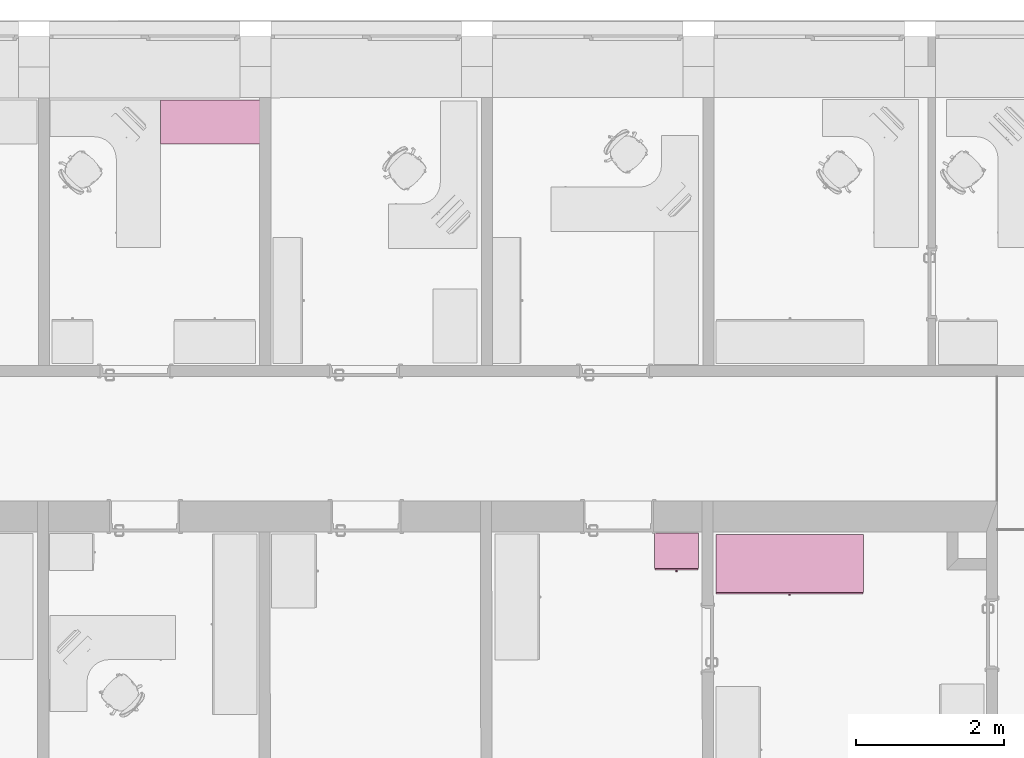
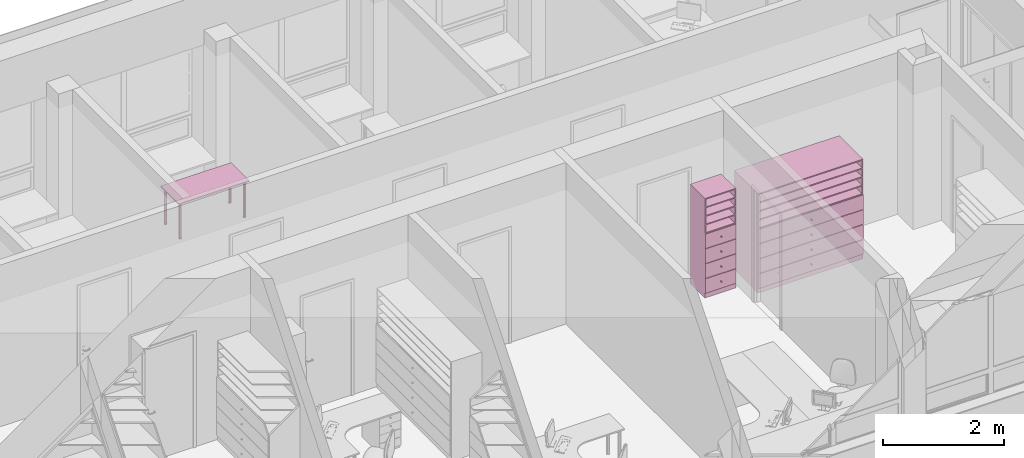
# One storey, part 184 of 194: 3 furnishings.
"""IFC2X3 building model written with IfcOpenShell, lengths in millimetres."""

import ifcopenshell
import ifcopenshell.guid

model = None  # the IFC model being written
_history = None  # IfcOwnerHistory: only IFC2X3 demands one
_inside = {}  # id of a spatial element -> (the spatial element, [elements in it])
_under = {}  # id of a project, library or spatial element -> (it, [spatial elements below it])
_declared = {}  # id of a project -> (the project, [libraries it declares])
_typed = {}  # id of a type object -> (the type object, [elements of that type])
_made_of = {}  # id of a material, layer set ... -> (it, [elements and type objects made of it])


def new_model(schema):
    """Start an empty IFC model of exactly this schema.

    Asked for "IFC4X3", IfcOpenShell would pick the latest addendum, in which some entities
    have other attributes; the version numbers below select the first issue.
    IFC2X3 requires an IfcOwnerHistory on every rooted entity: one is made here for all.
    """
    global model, _history
    if schema == "IFC4X3":
        model = ifcopenshell.file(schema_version=(4, 3, 0, 0))
    else:
        model = ifcopenshell.file(schema=schema)
    _inside.clear()
    _under.clear()
    _declared.clear()
    _typed.clear()
    _made_of.clear()
    _history = None
    if model.schema == "IFC2X3":
        org = make("IfcOrganization", Name="unknown")
        user = make(
            "IfcPersonAndOrganization",
            ThePerson=make("IfcPerson", FamilyName="unknown"),
            TheOrganization=org,
        )
        app = make(
            "IfcApplication",
            ApplicationDeveloper=org,
            Version="unknown",
            ApplicationFullName="unknown",
            ApplicationIdentifier="unknown",
        )
        _history = make(
            "IfcOwnerHistory",
            OwningUser=user,
            OwningApplication=app,
            ChangeAction="ADDED",
            CreationDate=0,
        )
    return model


def make(cls, **values):
    """One entity of the class cls with the attributes given. An attribute that is None is left unset."""
    return model.create_entity(
        cls, **{name: value for name, value in values.items() if value is not None}
    )


def entity(cls, *values):
    """Any entity or typed value of the class cls, its attributes in the order of the schema. None: left unset."""
    e = model.create_entity(cls)
    for i, value in enumerate(values):
        if value is not None:
            e[i] = value
    return e


def rooted(cls, **values):
    """An entity with a GlobalId (a new one), such as an element, a storey or a relation."""
    return make(cls, GlobalId=ifcopenshell.guid.new(), OwnerHistory=_history, **values)


def si_unit(unit_type, name, prefix=None):
    """IfcSIUnit, for example si_unit("LENGTHUNIT", "METRE", prefix="MILLI")."""
    return make("IfcSIUnit", UnitType=unit_type, Prefix=prefix, Name=name)


def converted_unit(unit_type, name, factor, base, dimensions=None, offset=None):
    """IfcConversionBasedUnit, such as the inch: factor (a typed value) times the base unit."""
    return make(
        "IfcConversionBasedUnit"
        if offset is None
        else "IfcConversionBasedUnitWithOffset",
        ConversionOffset=offset,
        Dimensions=None
        if dimensions is None
        else entity("IfcDimensionalExponents", *dimensions),
        UnitType=unit_type,
        Name=name,
        ConversionFactor=make(
            "IfcMeasureWithUnit", ValueComponent=factor, UnitComponent=base
        ),
    )


def derived_unit(unit_type, elements):
    """IfcDerivedUnit: a product of units, each with its exponent."""
    return make(
        "IfcDerivedUnit",
        Elements=[
            make("IfcDerivedUnitElement", Unit=unit, Exponent=power)
            for unit, power in elements
        ],
        UnitType=unit_type,
    )


def money_unit(currency):
    """IfcMonetaryUnit."""
    return make("IfcMonetaryUnit", Currency=currency)


def assignment(units):
    """IfcUnitAssignment: the units of a project."""
    return None if units is None else make("IfcUnitAssignment", Units=units)


def point(xyz):
    """IfcCartesianPoint."""
    return None if xyz is None else make("IfcCartesianPoint", Coordinates=xyz)


def direction(xyz):
    """IfcDirection."""
    return None if xyz is None else make("IfcDirection", DirectionRatios=xyz)


def frame(location, z_axis=None, x_axis=None):
    """IfcAxis2Placement3D, a coordinate frame: its origin and axes. An axis left out is left unset."""
    return make(
        "IfcAxis2Placement3D",
        Location=point(location),
        Axis=direction(z_axis),
        RefDirection=direction(x_axis),
    )


def origin_with_axes():
    """The frame at (0, 0, 0) with the z axis (0, 0, 1) and the x axis (1, 0, 0) written out."""
    return frame((0.0, 0.0, 0.0), z_axis=(0.0, 0.0, 1.0), x_axis=(1.0, 0.0, 0.0))


def place(relative_to, where):
    """IfcLocalPlacement: puts the frame where relative to a parent placement (None: the world)."""
    return make(
        "IfcLocalPlacement", PlacementRelTo=relative_to, RelativePlacement=where
    )


def context(
    kind, dimensions, precision=None, world=None, true_north=None, identifier=None
):
    """IfcGeometricRepresentationContext, for example the 3D "Model" context."""
    return make(
        "IfcGeometricRepresentationContext",
        ContextIdentifier=identifier,
        ContextType=kind,
        CoordinateSpaceDimension=dimensions,
        Precision=precision,
        WorldCoordinateSystem=world,
        TrueNorth=true_north,
    )


def subcontext(parent, identifier, kind, view, scale=None):
    """IfcGeometricRepresentationSubContext, for example "Body" below "Model"."""
    return make(
        "IfcGeometricRepresentationSubContext",
        ContextIdentifier=identifier,
        ContextType=kind,
        ParentContext=parent,
        TargetScale=scale,
        TargetView=view,
    )


def project(units=None, contexts=None):
    """IfcProject with its units and contexts."""
    return rooted(
        "IfcProject",
        Name="project",
        RepresentationContexts=contexts,
        UnitsInContext=assignment(units),
    )


def spatial(cls, under=None, at=None, **own):
    """A site, building, storey or space (cls), placed at a placement, below another one or the project."""
    s = rooted(cls, ObjectPlacement=at, **own)
    if under is not None:
        _under.setdefault(under.id(), (under, []))[1].append(s)
    return s


def faces_of(points, faces, orient=None, outer=None):
    """IfcFace entities. A face is a list of loops; a loop is a list of indices into points, from 0.

    orient and outer hold one flag for each loop. By default every Orientation is true, the
    first loop of a face is its IfcFaceOuterBound and the others are IfcFaceBound.
    """
    made = []
    for i, loops in enumerate(faces):
        bounds = []
        for j, loop in enumerate(loops):
            is_outer = j == 0 if outer is None else outer[i][j]
            bounds.append(
                make(
                    "IfcFaceOuterBound" if is_outer else "IfcFaceBound",
                    Bound=make("IfcPolyLoop", Polygon=[points[k] for k in loop]),
                    Orientation=True if orient is None else orient[i][j],
                )
            )
        made.append(make("IfcFace", Bounds=bounds))
    return made


def faceted_brep(points, faces, orient=None, outer=None, voids=None):
    """IfcFacetedBrep: a solid bounded by flat faces; with voids (closed shells), ...WithVoids."""
    shared = [point(p) for p in points]
    hull = make("IfcClosedShell", CfsFaces=faces_of(shared, faces, orient, outer))
    if voids is None:
        return make("IfcFacetedBrep", Outer=hull)
    return make(
        "IfcFacetedBrepWithVoids",
        Outer=hull,
        Voids=[
            make(cls, CfsFaces=faces_of(shared, fs, o, b)) for cls, fs, o, b in voids
        ],
    )


def shape(context_of_items, identifier, shape_type, items):
    """IfcShapeRepresentation: the items that make up one representation, for example the "Body"."""
    return make(
        "IfcShapeRepresentation",
        ContextOfItems=context_of_items,
        RepresentationIdentifier=identifier,
        RepresentationType=shape_type,
        Items=items,
    )


def made_of(thing, what):
    """Note that an element or type object is made of a material, layer set ...; save() writes the relation."""
    if what is not None:
        _made_of.setdefault(what.id(), (what, []))[1].append(thing)
    return thing


def type_object(cls, material=None, **own):
    """A type object (cls), such as IfcWallType, which elements share."""
    return made_of(rooted(cls, **own), material)


def element(
    cls,
    number,
    at=None,
    inside=None,
    cuts=None,
    type_object=None,
    material=None,
    context=None,
    identifier="Body",
    shape_type=None,
    held_by="IfcProductDefinitionShape",
    body=None,
    shapes=None,
    **own,
):
    """One element of the class cls, such as IfcWall. Its Tag is "e" and its number.

    at: its placement. inside: the storey or other place that contains it. cuts: it is an
    opening in that element (IfcRelVoidsElement). A single representation is given by context,
    identifier, shape_type and body (its items); several are given by shapes. held_by: the class
    of the entity that holds the representations. save() writes the other relations.
    """
    e = rooted(cls, Tag="e%d" % number, ObjectPlacement=at, **own)
    if body is not None:
        shapes = [shape(context, identifier, shape_type, body)]
    if shapes is not None:
        e.Representation = make(held_by, Representations=shapes)
    if inside is not None:
        _inside.setdefault(inside.id(), (inside, []))[1].append(e)
    if cuts is not None:
        rooted(
            "IfcRelVoidsElement", RelatingBuildingElement=cuts, RelatedOpeningElement=e
        )
    if type_object is not None:
        _typed.setdefault(type_object.id(), (type_object, []))[1].append(e)
    return made_of(e, material)


def aggregate(whole, parts):
    """IfcRelAggregates: a whole, such as a stair, and the parts it consists of."""
    return rooted("IfcRelAggregates", RelatingObject=whole, RelatedObjects=parts)


def save(model, path):
    """Write the relations noted so far, then the file.

    IfcRelAggregates (storeys below a building ...), IfcRelContainedInSpatialStructure (elements
    in a storey), IfcRelDefinesByType, IfcRelAssociatesMaterial and IfcRelDeclares: one each for
    every whole, place, type object, material and project.
    """
    for whole, parts in _under.values():
        aggregate(whole, parts)
    for where, things in _inside.values():
        rooted(
            "IfcRelContainedInSpatialStructure",
            RelatedElements=things,
            RelatingStructure=where,
        )
    for kind, things in _typed.values():
        rooted("IfcRelDefinesByType", RelatedObjects=things, RelatingType=kind)
    for what, things in _made_of.values():
        rooted("IfcRelAssociatesMaterial", RelatedObjects=things, RelatingMaterial=what)
    for by, libraries in _declared.values():
        rooted("IfcRelDeclares", RelatingContext=by, RelatedDefinitions=libraries)
    model.write(path)


model = new_model("IFC2X3")

# Units and contexts
model_context = context("Model", 3, precision=1e-05, world=origin_with_axes(), true_north=direction((0.0, 1.0)))
body_context = subcontext(model_context, "Body", "Model", "MODEL_VIEW")
ifc_project = project(units=[si_unit("LENGTHUNIT", "METRE", prefix="MILLI"), si_unit("AREAUNIT", "SQUARE_METRE"), si_unit("VOLUMEUNIT", "CUBIC_METRE"), converted_unit("PLANEANGLEUNIT", "DEGREE", entity("IfcPlaneAngleMeasure", 0.0174532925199), si_unit("PLANEANGLEUNIT", "RADIAN"), dimensions=[0, 0, 0, 0, 0, 0, 0]), si_unit("SOLIDANGLEUNIT", "STERADIAN"), money_unit("EUR"), converted_unit("TIMEUNIT", "Year", entity("IfcTimeMeasure", 31556926.0), si_unit("TIMEUNIT", "SECOND"), dimensions=[0, 0, 1, 0, 0, 0, 0]), si_unit("MASSUNIT", "GRAM", prefix="KILO"), si_unit("THERMODYNAMICTEMPERATUREUNIT", "DEGREE_CELSIUS"), si_unit("LUMINOUSINTENSITYUNIT", "LUMEN"), si_unit("ENERGYUNIT", "JOULE", prefix="MEGA"), derived_unit("THERMALCONDUCTANCEUNIT", [(si_unit("POWERUNIT", "WATT"), 1), (si_unit("LENGTHUNIT", "METRE"), -1), (si_unit("THERMODYNAMICTEMPERATUREUNIT", "KELVIN"), -1)]), derived_unit("SPECIFICHEATCAPACITYUNIT", [(si_unit("ENERGYUNIT", "JOULE"), 1), (si_unit("MASSUNIT", "GRAM", prefix="KILO"), -1), (si_unit("THERMODYNAMICTEMPERATUREUNIT", "KELVIN"), -1)]), derived_unit("MASSDENSITYUNIT", [(si_unit("MASSUNIT", "GRAM", prefix="KILO"), 1), (si_unit("VOLUMEUNIT", "CUBIC_METRE"), -1)])], contexts=[model_context])

# Site, building, storey
site_placement = place(None, origin_with_axes())
site = spatial("IfcSite", under=ifc_project, at=site_placement, Name="Site", CompositionType="ELEMENT")
building_placement = place(site_placement, origin_with_axes())
building = spatial("IfcBuilding", under=site, at=building_placement, Name="Building", CompositionType="ELEMENT")
storey_placement = place(building_placement, frame((0.0, 0.0, 3000.0), z_axis=(0.0, 0.0, 1.0), x_axis=(1.0, 0.0, 0.0)))
storey = spatial("IfcBuildingStorey", under=building, at=storey_placement, Name="2 KORRUS", CompositionType="ELEMENT", Elevation=3000.0)

# Furnishings
furnishing_element_type_1 = type_object("IfcFurnishingElementType", Name="Model Element 116")
furnishing_1_placement = place(storey_placement, frame((28010.7542874, 71059.9263733, 0.0), z_axis=(0.0, 0.0, 1.0), x_axis=(-1.0, 0.0, 0.0)))
element("IfcFurnishingElement", 1, at=furnishing_1_placement, inside=storey, type_object=furnishing_element_type_1, Name="FU - 007", context=body_context, shape_type="Brep", body=[
    faceted_brep([(0.0, 0.0, 725.0), (1344.18056905, 0.0, 725.0), (1344.18056905, 0.0, 750.0), (0.0, 0.0, 750.0), (0.0, 600.0, 725.0), (1344.18056905, 600.0, 725.0), (1344.18056905, 600.0, 750.0), (0.0, 600.0, 750.0)], [[[0, 1, 2, 3]], [[0, 4, 5, 1]], [[1, 5, 6, 2]], [[3, 2, 6, 7]], [[4, 0, 3, 7]], [[5, 4, 7, 6]]]),
    faceted_brep([(77.6776695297, 77.6776695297, 10.0), (85.0, 60.0, 10.0), (77.6776695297, 42.3223304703, 10.0), (60.0, 35.0, 10.0), (42.3223304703, 42.3223304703, 10.0), (35.0, 60.0, 10.0), (42.3223304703, 77.6776695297, 10.0), (60.0, 85.0, 10.0), (77.6776695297, 77.6776695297, 725.0), (85.0, 60.0, 725.0), (77.6776695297, 42.3223304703, 725.0), (60.0, 35.0, 725.0), (42.3223304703, 42.3223304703, 725.0), (35.0, 60.0, 725.0), (42.3223304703, 77.6776695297, 725.0), (60.0, 85.0, 725.0)], [[[0, 1, 2, 3, 4, 5, 6, 7]], [[1, 0, 8, 9]], [[2, 1, 9, 10]], [[3, 2, 10, 11]], [[4, 3, 11, 12]], [[5, 4, 12, 13]], [[6, 5, 13, 14]], [[7, 6, 14, 15]], [[0, 7, 15, 8]], [[8, 15, 14, 13, 12, 11, 10, 9]]]),
    faceted_brep([(81.2132034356, 81.2132034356, 0.0), (90.0, 60.0, 0.0), (81.2132034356, 38.7867965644, 0.0), (60.0, 30.0, 0.0), (38.7867965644, 38.7867965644, 0.0), (30.0, 60.0, 0.0), (38.7867965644, 81.2132034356, 0.0), (60.0, 90.0, 0.0), (81.2132034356, 81.2132034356, 10.0), (90.0, 60.0, 10.0), (81.2132034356, 38.7867965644, 10.0), (60.0, 30.0, 10.0), (38.7867965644, 38.7867965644, 10.0), (30.0, 60.0, 10.0), (38.7867965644, 81.2132034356, 10.0), (60.0, 90.0, 10.0)], [[[0, 1, 2, 3, 4, 5, 6, 7]], [[1, 0, 8, 9]], [[2, 1, 9, 10]], [[3, 2, 10, 11]], [[4, 3, 11, 12]], [[5, 4, 12, 13]], [[6, 5, 13, 14]], [[7, 6, 14, 15]], [[0, 7, 15, 8]], [[8, 15, 14, 13, 12, 11, 10, 9]]]),
    faceted_brep([(77.6776695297, 557.67766953, 10.0), (85.0, 540.0, 10.0), (77.6776695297, 522.32233047, 10.0), (60.0, 515.0, 10.0), (42.3223304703, 522.32233047, 10.0), (35.0, 540.0, 10.0), (42.3223304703, 557.67766953, 10.0), (60.0, 565.0, 10.0), (77.6776695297, 557.67766953, 725.0), (85.0, 540.0, 725.0), (77.6776695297, 522.32233047, 725.0), (60.0, 515.0, 725.0), (42.3223304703, 522.32233047, 725.0), (35.0, 540.0, 725.0), (42.3223304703, 557.67766953, 725.0), (60.0, 565.0, 725.0)], [[[0, 1, 2, 3, 4, 5, 6, 7]], [[1, 0, 8, 9]], [[2, 1, 9, 10]], [[3, 2, 10, 11]], [[4, 3, 11, 12]], [[5, 4, 12, 13]], [[6, 5, 13, 14]], [[7, 6, 14, 15]], [[0, 7, 15, 8]], [[8, 15, 14, 13, 12, 11, 10, 9]]]),
    faceted_brep([(81.2132034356, 561.213203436, 0.0), (90.0, 540.0, 0.0), (81.2132034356, 518.786796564, 0.0), (60.0, 510.0, 0.0), (38.7867965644, 518.786796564, 0.0), (30.0, 540.0, 0.0), (38.7867965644, 561.213203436, 0.0), (60.0, 570.0, 0.0), (81.2132034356, 561.213203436, 10.0), (90.0, 540.0, 10.0), (81.2132034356, 518.786796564, 10.0), (60.0, 510.0, 10.0), (38.7867965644, 518.786796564, 10.0), (30.0, 540.0, 10.0), (38.7867965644, 561.213203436, 10.0), (60.0, 570.0, 10.0)], [[[0, 1, 2, 3, 4, 5, 6, 7]], [[1, 0, 8, 9]], [[2, 1, 9, 10]], [[3, 2, 10, 11]], [[4, 3, 11, 12]], [[5, 4, 12, 13]], [[6, 5, 13, 14]], [[7, 6, 14, 15]], [[0, 7, 15, 8]], [[8, 15, 14, 13, 12, 11, 10, 9]]]),
    faceted_brep([(1301.85823858, 77.6776695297, 10.0), (1309.18056905, 60.0, 10.0), (1301.85823858, 42.3223304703, 10.0), (1284.18056905, 35.0, 10.0), (1266.50289952, 42.3223304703, 10.0), (1259.18056905, 60.0, 10.0), (1266.50289952, 77.6776695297, 10.0), (1284.18056905, 85.0, 10.0), (1301.85823858, 77.6776695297, 725.0), (1309.18056905, 60.0, 725.0), (1301.85823858, 42.3223304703, 725.0), (1284.18056905, 35.0, 725.0), (1266.50289952, 42.3223304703, 725.0), (1259.18056905, 60.0, 725.0), (1266.50289952, 77.6776695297, 725.0), (1284.18056905, 85.0, 725.0)], [[[0, 1, 2, 3, 4, 5, 6, 7]], [[1, 0, 8, 9]], [[2, 1, 9, 10]], [[3, 2, 10, 11]], [[4, 3, 11, 12]], [[5, 4, 12, 13]], [[6, 5, 13, 14]], [[7, 6, 14, 15]], [[0, 7, 15, 8]], [[8, 15, 14, 13, 12, 11, 10, 9]]]),
    faceted_brep([(1305.39377249, 81.2132034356, 0.0), (1314.18056905, 60.0, 0.0), (1305.39377249, 38.7867965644, 0.0), (1284.18056905, 30.0, 0.0), (1262.96736562, 38.7867965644, 0.0), (1254.18056905, 60.0, 0.0), (1262.96736562, 81.2132034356, 0.0), (1284.18056905, 90.0, 0.0), (1305.39377249, 81.2132034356, 10.0), (1314.18056905, 60.0, 10.0), (1305.39377249, 38.7867965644, 10.0), (1284.18056905, 30.0, 10.0), (1262.96736562, 38.7867965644, 10.0), (1254.18056905, 60.0, 10.0), (1262.96736562, 81.2132034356, 10.0), (1284.18056905, 90.0, 10.0)], [[[0, 1, 2, 3, 4, 5, 6, 7]], [[1, 0, 8, 9]], [[2, 1, 9, 10]], [[3, 2, 10, 11]], [[4, 3, 11, 12]], [[5, 4, 12, 13]], [[6, 5, 13, 14]], [[7, 6, 14, 15]], [[0, 7, 15, 8]], [[8, 15, 14, 13, 12, 11, 10, 9]]]),
    faceted_brep([(1301.85823858, 557.67766953, 10.0), (1309.18056905, 540.0, 10.0), (1301.85823858, 522.32233047, 10.0), (1284.18056905, 515.0, 10.0), (1266.50289952, 522.32233047, 10.0), (1259.18056905, 540.0, 10.0), (1266.50289952, 557.67766953, 10.0), (1284.18056905, 565.0, 10.0), (1301.85823858, 557.67766953, 725.0), (1309.18056905, 540.0, 725.0), (1301.85823858, 522.32233047, 725.0), (1284.18056905, 515.0, 725.0), (1266.50289952, 522.32233047, 725.0), (1259.18056905, 540.0, 725.0), (1266.50289952, 557.67766953, 725.0), (1284.18056905, 565.0, 725.0)], [[[0, 1, 2, 3, 4, 5, 6, 7]], [[1, 0, 8, 9]], [[2, 1, 9, 10]], [[3, 2, 10, 11]], [[4, 3, 11, 12]], [[5, 4, 12, 13]], [[6, 5, 13, 14]], [[7, 6, 14, 15]], [[0, 7, 15, 8]], [[8, 15, 14, 13, 12, 11, 10, 9]]]),
    faceted_brep([(1305.39377249, 561.213203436, 0.0), (1314.18056905, 540.0, 0.0), (1305.39377249, 518.786796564, 0.0), (1284.18056905, 510.0, 0.0), (1262.96736562, 518.786796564, 0.0), (1254.18056905, 540.0, 0.0), (1262.96736562, 561.213203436, 0.0), (1284.18056905, 570.0, 0.0), (1305.39377249, 561.213203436, 10.0), (1314.18056905, 540.0, 10.0), (1305.39377249, 518.786796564, 10.0), (1284.18056905, 510.0, 10.0), (1262.96736562, 518.786796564, 10.0), (1254.18056905, 540.0, 10.0), (1262.96736562, 561.213203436, 10.0), (1284.18056905, 570.0, 10.0)], [[[0, 1, 2, 3, 4, 5, 6, 7]], [[1, 0, 8, 9]], [[2, 1, 9, 10]], [[3, 2, 10, 11]], [[4, 3, 11, 12]], [[5, 4, 12, 13]], [[6, 5, 13, 14]], [[7, 6, 14, 15]], [[0, 7, 15, 8]], [[8, 15, 14, 13, 12, 11, 10, 9]]]),
])
furnishing_element_type_2 = type_object("IfcFurnishingElementType", Name="Model Element 108")
furnishing_2_placement = place(storey_placement, frame((33358.8312851, 64692.4288711, 0.0), z_axis=(0.0, 0.0, 1.0), x_axis=(0.999999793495, -0.000642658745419, 0.0)))
element("IfcFurnishingElement", 2, at=furnishing_2_placement, inside=storey, type_object=furnishing_element_type_2, Name="FU - 001", context=body_context, shape_type="Brep", body=[
    faceted_brep([(590.622233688, 19.0, 0.0), (0.0, 19.0, 0.0), (0.0, 501.104312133, 0.0), (590.622233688, 501.104312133, 0.0), (590.622233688, 19.0, 100.0), (0.0, 19.0, 100.0), (0.0, 501.104312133, 100.0), (590.622233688, 501.104312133, 100.0)], [[[0, 1, 2, 3]], [[1, 0, 4, 5]], [[2, 1, 5, 6]], [[3, 2, 6, 7]], [[0, 3, 7, 4]], [[5, 4, 7, 6]]]),
    faceted_brep([(19.0, 501.104312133, 119.0), (19.0, 482.104312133, 119.0), (19.0, 482.104312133, 1981.0), (19.0, 501.104312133, 1981.0), (571.622233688, 501.104312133, 119.0), (571.622233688, 482.104312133, 119.0), (571.622233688, 482.104312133, 1981.0), (571.622233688, 501.104312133, 1981.0)], [[[0, 1, 2, 3]], [[0, 4, 5, 1]], [[1, 5, 6, 2]], [[3, 2, 6, 7]], [[4, 0, 3, 7]], [[5, 4, 7, 6]]]),
    faceted_brep([(590.622233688, 19.0, 100.0), (571.622233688, 19.0, 100.0), (571.622233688, 501.104312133, 100.0), (590.622233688, 501.104312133, 100.0), (590.622233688, 19.0, 2000.0), (571.622233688, 19.0, 2000.0), (571.622233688, 501.104312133, 2000.0), (590.622233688, 501.104312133, 2000.0)], [[[0, 1, 2, 3]], [[1, 0, 4, 5]], [[2, 1, 5, 6]], [[3, 2, 6, 7]], [[0, 3, 7, 4]], [[5, 4, 7, 6]]]),
    faceted_brep([(19.0, 19.0, 100.0), (0.0, 19.0, 100.0), (0.0, 501.104312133, 100.0), (19.0, 501.104312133, 100.0), (19.0, 19.0, 2000.0), (0.0, 19.0, 2000.0), (0.0, 501.104312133, 2000.0), (19.0, 501.104312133, 2000.0)], [[[0, 1, 2, 3]], [[1, 0, 4, 5]], [[2, 1, 5, 6]], [[3, 2, 6, 7]], [[0, 3, 7, 4]], [[5, 4, 7, 6]]]),
    faceted_brep([(571.622233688, 19.0, 100.0), (19.0, 19.0, 100.0), (19.0, 501.104312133, 100.0), (571.622233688, 501.104312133, 100.0), (571.622233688, 19.0, 119.0), (19.0, 19.0, 119.0), (19.0, 501.104312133, 119.0), (571.622233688, 501.104312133, 119.0)], [[[0, 1, 2, 3]], [[1, 0, 4, 5]], [[2, 1, 5, 6]], [[3, 2, 6, 7]], [[0, 3, 7, 4]], [[5, 4, 7, 6]]]),
    faceted_brep([(571.622233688, 19.0, 1981.0), (19.0, 19.0, 1981.0), (19.0, 501.104312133, 1981.0), (571.622233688, 501.104312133, 1981.0), (571.622233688, 19.0, 2000.0), (19.0, 19.0, 2000.0), (19.0, 501.104312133, 2000.0), (571.622233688, 501.104312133, 2000.0)], [[[0, 1, 2, 3]], [[1, 0, 4, 5]], [[2, 1, 5, 6]], [[3, 2, 6, 7]], [[0, 3, 7, 4]], [[5, 4, 7, 6]]]),
    faceted_brep([(5.0, 19.0, 105.0), (585.622233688, 19.0, 105.0), (585.622233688, 0.0, 105.0), (5.0, 0.0, 105.0), (5.0, 19.0, 395.0), (585.622233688, 19.0, 395.0), (585.622233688, 0.0, 395.0), (5.0, 0.0, 395.0)], [[[0, 1, 2, 3]], [[0, 4, 5, 1]], [[1, 5, 6, 2]], [[3, 2, 6, 7]], [[4, 0, 3, 7]], [[5, 4, 7, 6]]]),
    faceted_brep([(305.703421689, 0.0, 244.0), (301.311116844, 0.0, 239.607695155), (295.311116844, 0.0, 238.0), (289.311116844, 0.0, 239.607695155), (284.918811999, 0.0, 244.0), (283.311116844, 0.0, 250.0), (284.918811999, 0.0, 256.0), (289.311116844, 0.0, 260.392304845), (295.311116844, 0.0, 262.0), (301.311116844, 0.0, 260.392304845), (305.703421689, 0.0, 256.0), (307.311116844, 0.0, 250.0), (305.703421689, -25.0, 244.0), (301.311116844, -25.0, 239.607695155), (295.311116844, -25.0, 238.0), (289.311116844, -25.0, 239.607695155), (284.918811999, -25.0, 244.0), (283.311116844, -25.0, 250.0), (284.918811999, -25.0, 256.0), (289.311116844, -25.0, 260.392304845), (295.311116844, -25.0, 262.0), (301.311116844, -25.0, 260.392304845), (305.703421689, -25.0, 256.0), (307.311116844, -25.0, 250.0)], [[[0, 1, 2, 3, 4, 5, 6, 7, 8, 9, 10, 11]], [[1, 0, 12, 13]], [[2, 1, 13, 14]], [[3, 2, 14, 15]], [[4, 3, 15, 16]], [[5, 4, 16, 17]], [[6, 5, 17, 18]], [[7, 6, 18, 19]], [[8, 7, 19, 20]], [[9, 8, 20, 21]], [[10, 9, 21, 22]], [[11, 10, 22, 23]], [[0, 11, 23, 12]], [[12, 23, 22, 21, 20, 19, 18, 17, 16, 15, 14, 13]]]),
    faceted_brep([(5.0, 19.0, 405.0), (585.622233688, 19.0, 405.0), (585.622233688, 0.0, 405.0), (5.0, 0.0, 405.0), (5.0, 19.0, 695.0), (585.622233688, 19.0, 695.0), (585.622233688, 0.0, 695.0), (5.0, 0.0, 695.0)], [[[0, 1, 2, 3]], [[0, 4, 5, 1]], [[1, 5, 6, 2]], [[3, 2, 6, 7]], [[4, 0, 3, 7]], [[5, 4, 7, 6]]]),
    faceted_brep([(305.703421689, 0.0, 544.0), (301.311116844, 0.0, 539.607695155), (295.311116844, 0.0, 538.0), (289.311116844, 0.0, 539.607695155), (284.918811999, 0.0, 544.0), (283.311116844, 0.0, 550.0), (284.918811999, 0.0, 556.0), (289.311116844, 0.0, 560.392304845), (295.311116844, 0.0, 562.0), (301.311116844, 0.0, 560.392304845), (305.703421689, 0.0, 556.0), (307.311116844, 0.0, 550.0), (305.703421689, -25.0, 544.0), (301.311116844, -25.0, 539.607695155), (295.311116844, -25.0, 538.0), (289.311116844, -25.0, 539.607695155), (284.918811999, -25.0, 544.0), (283.311116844, -25.0, 550.0), (284.918811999, -25.0, 556.0), (289.311116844, -25.0, 560.392304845), (295.311116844, -25.0, 562.0), (301.311116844, -25.0, 560.392304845), (305.703421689, -25.0, 556.0), (307.311116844, -25.0, 550.0)], [[[0, 1, 2, 3, 4, 5, 6, 7, 8, 9, 10, 11]], [[1, 0, 12, 13]], [[2, 1, 13, 14]], [[3, 2, 14, 15]], [[4, 3, 15, 16]], [[5, 4, 16, 17]], [[6, 5, 17, 18]], [[7, 6, 18, 19]], [[8, 7, 19, 20]], [[9, 8, 20, 21]], [[10, 9, 21, 22]], [[11, 10, 22, 23]], [[0, 11, 23, 12]], [[12, 23, 22, 21, 20, 19, 18, 17, 16, 15, 14, 13]]]),
    faceted_brep([(5.0, 19.0, 705.0), (585.622233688, 19.0, 705.0), (585.622233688, 0.0, 705.0), (5.0, 0.0, 705.0), (5.0, 19.0, 995.0), (585.622233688, 19.0, 995.0), (585.622233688, 0.0, 995.0), (5.0, 0.0, 995.0)], [[[0, 1, 2, 3]], [[0, 4, 5, 1]], [[1, 5, 6, 2]], [[3, 2, 6, 7]], [[4, 0, 3, 7]], [[5, 4, 7, 6]]]),
    faceted_brep([(305.703421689, 0.0, 844.0), (301.311116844, 0.0, 839.607695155), (295.311116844, 0.0, 838.0), (289.311116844, 0.0, 839.607695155), (284.918811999, 0.0, 844.0), (283.311116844, 0.0, 850.0), (284.918811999, 0.0, 856.0), (289.311116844, 0.0, 860.392304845), (295.311116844, 0.0, 862.0), (301.311116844, 0.0, 860.392304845), (305.703421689, 0.0, 856.0), (307.311116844, 0.0, 850.0), (305.703421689, -25.0, 844.0), (301.311116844, -25.0, 839.607695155), (295.311116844, -25.0, 838.0), (289.311116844, -25.0, 839.607695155), (284.918811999, -25.0, 844.0), (283.311116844, -25.0, 850.0), (284.918811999, -25.0, 856.0), (289.311116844, -25.0, 860.392304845), (295.311116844, -25.0, 862.0), (301.311116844, -25.0, 860.392304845), (305.703421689, -25.0, 856.0), (307.311116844, -25.0, 850.0)], [[[0, 1, 2, 3, 4, 5, 6, 7, 8, 9, 10, 11]], [[1, 0, 12, 13]], [[2, 1, 13, 14]], [[3, 2, 14, 15]], [[4, 3, 15, 16]], [[5, 4, 16, 17]], [[6, 5, 17, 18]], [[7, 6, 18, 19]], [[8, 7, 19, 20]], [[9, 8, 20, 21]], [[10, 9, 21, 22]], [[11, 10, 22, 23]], [[0, 11, 23, 12]], [[12, 23, 22, 21, 20, 19, 18, 17, 16, 15, 14, 13]]]),
    faceted_brep([(5.0, 19.0, 1005.0), (585.622233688, 19.0, 1005.0), (585.622233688, 0.0, 1005.0), (5.0, 0.0, 1005.0), (5.0, 19.0, 1295.0), (585.622233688, 19.0, 1295.0), (585.622233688, 0.0, 1295.0), (5.0, 0.0, 1295.0)], [[[0, 1, 2, 3]], [[0, 4, 5, 1]], [[1, 5, 6, 2]], [[3, 2, 6, 7]], [[4, 0, 3, 7]], [[5, 4, 7, 6]]]),
    faceted_brep([(305.703421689, 0.0, 1144.0), (301.311116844, 0.0, 1139.60769515), (295.311116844, 0.0, 1138.0), (289.311116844, 0.0, 1139.60769515), (284.918811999, 0.0, 1144.0), (283.311116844, 0.0, 1150.0), (284.918811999, 0.0, 1156.0), (289.311116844, 0.0, 1160.39230485), (295.311116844, 0.0, 1162.0), (301.311116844, 0.0, 1160.39230485), (305.703421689, 0.0, 1156.0), (307.311116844, 0.0, 1150.0), (305.703421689, -25.0, 1144.0), (301.311116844, -25.0, 1139.60769515), (295.311116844, -25.0, 1138.0), (289.311116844, -25.0, 1139.60769515), (284.918811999, -25.0, 1144.0), (283.311116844, -25.0, 1150.0), (284.918811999, -25.0, 1156.0), (289.311116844, -25.0, 1160.39230485), (295.311116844, -25.0, 1162.0), (301.311116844, -25.0, 1160.39230485), (305.703421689, -25.0, 1156.0), (307.311116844, -25.0, 1150.0)], [[[0, 1, 2, 3, 4, 5, 6, 7, 8, 9, 10, 11]], [[1, 0, 12, 13]], [[2, 1, 13, 14]], [[3, 2, 14, 15]], [[4, 3, 15, 16]], [[5, 4, 16, 17]], [[6, 5, 17, 18]], [[7, 6, 18, 19]], [[8, 7, 19, 20]], [[9, 8, 20, 21]], [[10, 9, 21, 22]], [[11, 10, 22, 23]], [[0, 11, 23, 12]], [[12, 23, 22, 21, 20, 19, 18, 17, 16, 15, 14, 13]]]),
    faceted_brep([(19.0, 19.0, 390.5), (571.622233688, 19.0, 390.5), (571.622233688, 19.0, 409.5), (19.0, 19.0, 409.5), (19.0, 482.104312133, 390.5), (571.622233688, 482.104312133, 390.5), (571.622233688, 482.104312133, 409.5), (19.0, 482.104312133, 409.5)], [[[0, 1, 2, 3]], [[0, 4, 5, 1]], [[1, 5, 6, 2]], [[3, 2, 6, 7]], [[4, 0, 3, 7]], [[5, 4, 7, 6]]]),
    faceted_brep([(19.0, 19.0, 690.5), (571.622233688, 19.0, 690.5), (571.622233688, 19.0, 709.5), (19.0, 19.0, 709.5), (19.0, 482.104312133, 690.5), (571.622233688, 482.104312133, 690.5), (571.622233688, 482.104312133, 709.5), (19.0, 482.104312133, 709.5)], [[[0, 1, 2, 3]], [[0, 4, 5, 1]], [[1, 5, 6, 2]], [[3, 2, 6, 7]], [[4, 0, 3, 7]], [[5, 4, 7, 6]]]),
    faceted_brep([(19.0, 19.0, 990.5), (571.622233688, 19.0, 990.5), (571.622233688, 19.0, 1009.5), (19.0, 19.0, 1009.5), (19.0, 482.104312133, 990.5), (571.622233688, 482.104312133, 990.5), (571.622233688, 482.104312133, 1009.5), (19.0, 482.104312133, 1009.5)], [[[0, 1, 2, 3]], [[0, 4, 5, 1]], [[1, 5, 6, 2]], [[3, 2, 6, 7]], [[4, 0, 3, 7]], [[5, 4, 7, 6]]]),
    faceted_brep([(19.0, 19.0, 1290.5), (571.622233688, 19.0, 1290.5), (571.622233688, 19.0, 1309.5), (19.0, 19.0, 1309.5), (19.0, 482.104312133, 1290.5), (571.622233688, 482.104312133, 1290.5), (571.622233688, 482.104312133, 1309.5), (19.0, 482.104312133, 1309.5)], [[[0, 1, 2, 3]], [[0, 4, 5, 1]], [[1, 5, 6, 2]], [[3, 2, 6, 7]], [[4, 0, 3, 7]], [[5, 4, 7, 6]]]),
    faceted_brep([(571.622233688, 19.0, 1463.125), (19.0, 19.0, 1463.125), (19.0, 482.104312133, 1463.125), (571.622233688, 482.104312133, 1463.125), (571.622233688, 19.0, 1482.125), (19.0, 19.0, 1482.125), (19.0, 482.104312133, 1482.125), (571.622233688, 482.104312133, 1482.125)], [[[0, 1, 2, 3]], [[1, 0, 4, 5]], [[2, 1, 5, 6]], [[3, 2, 6, 7]], [[0, 3, 7, 4]], [[5, 4, 7, 6]]]),
    faceted_brep([(571.622233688, 19.0, 1635.75), (19.0, 19.0, 1635.75), (19.0, 482.104312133, 1635.75), (571.622233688, 482.104312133, 1635.75), (571.622233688, 19.0, 1654.75), (19.0, 19.0, 1654.75), (19.0, 482.104312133, 1654.75), (571.622233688, 482.104312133, 1654.75)], [[[0, 1, 2, 3]], [[1, 0, 4, 5]], [[2, 1, 5, 6]], [[3, 2, 6, 7]], [[0, 3, 7, 4]], [[5, 4, 7, 6]]]),
    faceted_brep([(571.622233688, 19.0, 1808.375), (19.0, 19.0, 1808.375), (19.0, 482.104312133, 1808.375), (571.622233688, 482.104312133, 1808.375), (571.622233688, 19.0, 1827.375), (19.0, 19.0, 1827.375), (19.0, 482.104312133, 1827.375), (571.622233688, 482.104312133, 1827.375)], [[[0, 1, 2, 3]], [[1, 0, 4, 5]], [[2, 1, 5, 6]], [[3, 2, 6, 7]], [[0, 3, 7, 4]], [[5, 4, 7, 6]]]),
])
furnishing_element_type_3 = type_object("IfcFurnishingElementType", Name="Model Element 103")
furnishing_3_placement = place(storey_placement, frame((34185.3635849, 64371.7860461, 0.0), z_axis=(0.0, 0.0, 1.0), x_axis=(1.0, 0.0, 0.0)))
element("IfcFurnishingElement", 3, at=furnishing_3_placement, inside=storey, type_object=furnishing_element_type_3, Name="FU - 001", context=body_context, shape_type="Brep", body=[
    faceted_brep([(2000.0, 19.0, 0.0), (0.0, 19.0, 0.0), (0.0, 800.0, 0.0), (2000.0, 800.0, 0.0), (2000.0, 19.0, 100.0), (0.0, 19.0, 100.0), (0.0, 800.0, 100.0), (2000.0, 800.0, 100.0)], [[[0, 1, 2, 3]], [[1, 0, 4, 5]], [[2, 1, 5, 6]], [[3, 2, 6, 7]], [[0, 3, 7, 4]], [[5, 4, 7, 6]]]),
    faceted_brep([(19.0, 800.0, 119.0), (19.0, 781.0, 119.0), (19.0, 781.0, 1981.0), (19.0, 800.0, 1981.0), (1981.0, 800.0, 119.0), (1981.0, 781.0, 119.0), (1981.0, 781.0, 1981.0), (1981.0, 800.0, 1981.0)], [[[0, 1, 2, 3]], [[0, 4, 5, 1]], [[1, 5, 6, 2]], [[3, 2, 6, 7]], [[4, 0, 3, 7]], [[5, 4, 7, 6]]]),
    faceted_brep([(2000.0, 19.0, 100.0), (1981.0, 19.0, 100.0), (1981.0, 800.0, 100.0), (2000.0, 800.0, 100.0), (2000.0, 19.0, 2000.0), (1981.0, 19.0, 2000.0), (1981.0, 800.0, 2000.0), (2000.0, 800.0, 2000.0)], [[[0, 1, 2, 3]], [[1, 0, 4, 5]], [[2, 1, 5, 6]], [[3, 2, 6, 7]], [[0, 3, 7, 4]], [[5, 4, 7, 6]]]),
    faceted_brep([(19.0, 19.0, 100.0), (0.0, 19.0, 100.0), (0.0, 800.0, 100.0), (19.0, 800.0, 100.0), (19.0, 19.0, 2000.0), (0.0, 19.0, 2000.0), (0.0, 800.0, 2000.0), (19.0, 800.0, 2000.0)], [[[0, 1, 2, 3]], [[1, 0, 4, 5]], [[2, 1, 5, 6]], [[3, 2, 6, 7]], [[0, 3, 7, 4]], [[5, 4, 7, 6]]]),
    faceted_brep([(1981.0, 19.0, 100.0), (19.0, 19.0, 100.0), (19.0, 800.0, 100.0), (1981.0, 800.0, 100.0), (1981.0, 19.0, 119.0), (19.0, 19.0, 119.0), (19.0, 800.0, 119.0), (1981.0, 800.0, 119.0)], [[[0, 1, 2, 3]], [[1, 0, 4, 5]], [[2, 1, 5, 6]], [[3, 2, 6, 7]], [[0, 3, 7, 4]], [[5, 4, 7, 6]]]),
    faceted_brep([(1981.0, 19.0, 1981.0), (19.0, 19.0, 1981.0), (19.0, 800.0, 1981.0), (1981.0, 800.0, 1981.0), (1981.0, 19.0, 2000.0), (19.0, 19.0, 2000.0), (19.0, 800.0, 2000.0), (1981.0, 800.0, 2000.0)], [[[0, 1, 2, 3]], [[1, 0, 4, 5]], [[2, 1, 5, 6]], [[3, 2, 6, 7]], [[0, 3, 7, 4]], [[5, 4, 7, 6]]]),
    faceted_brep([(5.0, 19.0, 105.0), (1995.0, 19.0, 105.0), (1995.0, 0.0, 105.0), (5.0, 0.0, 105.0), (5.0, 19.0, 395.0), (1995.0, 19.0, 395.0), (1995.0, 0.0, 395.0), (5.0, 0.0, 395.0)], [[[0, 1, 2, 3]], [[0, 4, 5, 1]], [[1, 5, 6, 2]], [[3, 2, 6, 7]], [[4, 0, 3, 7]], [[5, 4, 7, 6]]]),
    faceted_brep([(1010.39230485, 0.0, 244.0), (1006.0, 0.0, 239.607695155), (1000.0, 0.0, 238.0), (994.0, 0.0, 239.607695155), (989.607695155, 0.0, 244.0), (988.0, 0.0, 250.0), (989.607695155, 0.0, 256.0), (994.0, 0.0, 260.392304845), (1000.0, 0.0, 262.0), (1006.0, 0.0, 260.392304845), (1010.39230485, 0.0, 256.0), (1012.0, 0.0, 250.0), (1010.39230485, -25.0, 244.0), (1006.0, -25.0, 239.607695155), (1000.0, -25.0, 238.0), (994.0, -25.0, 239.607695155), (989.607695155, -25.0, 244.0), (988.0, -25.0, 250.0), (989.607695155, -25.0, 256.0), (994.0, -25.0, 260.392304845), (1000.0, -25.0, 262.0), (1006.0, -25.0, 260.392304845), (1010.39230485, -25.0, 256.0), (1012.0, -25.0, 250.0)], [[[0, 1, 2, 3, 4, 5, 6, 7, 8, 9, 10, 11]], [[1, 0, 12, 13]], [[2, 1, 13, 14]], [[3, 2, 14, 15]], [[4, 3, 15, 16]], [[5, 4, 16, 17]], [[6, 5, 17, 18]], [[7, 6, 18, 19]], [[8, 7, 19, 20]], [[9, 8, 20, 21]], [[10, 9, 21, 22]], [[11, 10, 22, 23]], [[0, 11, 23, 12]], [[12, 23, 22, 21, 20, 19, 18, 17, 16, 15, 14, 13]]]),
    faceted_brep([(5.0, 19.0, 405.0), (1995.0, 19.0, 405.0), (1995.0, 0.0, 405.0), (5.0, 0.0, 405.0), (5.0, 19.0, 695.0), (1995.0, 19.0, 695.0), (1995.0, 0.0, 695.0), (5.0, 0.0, 695.0)], [[[0, 1, 2, 3]], [[0, 4, 5, 1]], [[1, 5, 6, 2]], [[3, 2, 6, 7]], [[4, 0, 3, 7]], [[5, 4, 7, 6]]]),
    faceted_brep([(1010.39230485, 0.0, 544.0), (1006.0, 0.0, 539.607695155), (1000.0, 0.0, 538.0), (994.0, 0.0, 539.607695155), (989.607695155, 0.0, 544.0), (988.0, 0.0, 550.0), (989.607695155, 0.0, 556.0), (994.0, 0.0, 560.392304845), (1000.0, 0.0, 562.0), (1006.0, 0.0, 560.392304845), (1010.39230485, 0.0, 556.0), (1012.0, 0.0, 550.0), (1010.39230485, -25.0, 544.0), (1006.0, -25.0, 539.607695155), (1000.0, -25.0, 538.0), (994.0, -25.0, 539.607695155), (989.607695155, -25.0, 544.0), (988.0, -25.0, 550.0), (989.607695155, -25.0, 556.0), (994.0, -25.0, 560.392304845), (1000.0, -25.0, 562.0), (1006.0, -25.0, 560.392304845), (1010.39230485, -25.0, 556.0), (1012.0, -25.0, 550.0)], [[[0, 1, 2, 3, 4, 5, 6, 7, 8, 9, 10, 11]], [[1, 0, 12, 13]], [[2, 1, 13, 14]], [[3, 2, 14, 15]], [[4, 3, 15, 16]], [[5, 4, 16, 17]], [[6, 5, 17, 18]], [[7, 6, 18, 19]], [[8, 7, 19, 20]], [[9, 8, 20, 21]], [[10, 9, 21, 22]], [[11, 10, 22, 23]], [[0, 11, 23, 12]], [[12, 23, 22, 21, 20, 19, 18, 17, 16, 15, 14, 13]]]),
    faceted_brep([(5.0, 19.0, 705.0), (1995.0, 19.0, 705.0), (1995.0, 0.0, 705.0), (5.0, 0.0, 705.0), (5.0, 19.0, 995.0), (1995.0, 19.0, 995.0), (1995.0, 0.0, 995.0), (5.0, 0.0, 995.0)], [[[0, 1, 2, 3]], [[0, 4, 5, 1]], [[1, 5, 6, 2]], [[3, 2, 6, 7]], [[4, 0, 3, 7]], [[5, 4, 7, 6]]]),
    faceted_brep([(1010.39230485, 0.0, 844.0), (1006.0, 0.0, 839.607695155), (1000.0, 0.0, 838.0), (994.0, 0.0, 839.607695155), (989.607695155, 0.0, 844.0), (988.0, 0.0, 850.0), (989.607695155, 0.0, 856.0), (994.0, 0.0, 860.392304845), (1000.0, 0.0, 862.0), (1006.0, 0.0, 860.392304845), (1010.39230485, 0.0, 856.0), (1012.0, 0.0, 850.0), (1010.39230485, -25.0, 844.0), (1006.0, -25.0, 839.607695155), (1000.0, -25.0, 838.0), (994.0, -25.0, 839.607695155), (989.607695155, -25.0, 844.0), (988.0, -25.0, 850.0), (989.607695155, -25.0, 856.0), (994.0, -25.0, 860.392304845), (1000.0, -25.0, 862.0), (1006.0, -25.0, 860.392304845), (1010.39230485, -25.0, 856.0), (1012.0, -25.0, 850.0)], [[[0, 1, 2, 3, 4, 5, 6, 7, 8, 9, 10, 11]], [[1, 0, 12, 13]], [[2, 1, 13, 14]], [[3, 2, 14, 15]], [[4, 3, 15, 16]], [[5, 4, 16, 17]], [[6, 5, 17, 18]], [[7, 6, 18, 19]], [[8, 7, 19, 20]], [[9, 8, 20, 21]], [[10, 9, 21, 22]], [[11, 10, 22, 23]], [[0, 11, 23, 12]], [[12, 23, 22, 21, 20, 19, 18, 17, 16, 15, 14, 13]]]),
    faceted_brep([(5.0, 19.0, 1005.0), (1995.0, 19.0, 1005.0), (1995.0, 0.0, 1005.0), (5.0, 0.0, 1005.0), (5.0, 19.0, 1295.0), (1995.0, 19.0, 1295.0), (1995.0, 0.0, 1295.0), (5.0, 0.0, 1295.0)], [[[0, 1, 2, 3]], [[0, 4, 5, 1]], [[1, 5, 6, 2]], [[3, 2, 6, 7]], [[4, 0, 3, 7]], [[5, 4, 7, 6]]]),
    faceted_brep([(1010.39230485, 0.0, 1144.0), (1006.0, 0.0, 1139.60769515), (1000.0, 0.0, 1138.0), (994.0, 0.0, 1139.60769515), (989.607695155, 0.0, 1144.0), (988.0, 0.0, 1150.0), (989.607695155, 0.0, 1156.0), (994.0, 0.0, 1160.39230485), (1000.0, 0.0, 1162.0), (1006.0, 0.0, 1160.39230485), (1010.39230485, 0.0, 1156.0), (1012.0, 0.0, 1150.0), (1010.39230485, -25.0, 1144.0), (1006.0, -25.0, 1139.60769515), (1000.0, -25.0, 1138.0), (994.0, -25.0, 1139.60769515), (989.607695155, -25.0, 1144.0), (988.0, -25.0, 1150.0), (989.607695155, -25.0, 1156.0), (994.0, -25.0, 1160.39230485), (1000.0, -25.0, 1162.0), (1006.0, -25.0, 1160.39230485), (1010.39230485, -25.0, 1156.0), (1012.0, -25.0, 1150.0)], [[[0, 1, 2, 3, 4, 5, 6, 7, 8, 9, 10, 11]], [[1, 0, 12, 13]], [[2, 1, 13, 14]], [[3, 2, 14, 15]], [[4, 3, 15, 16]], [[5, 4, 16, 17]], [[6, 5, 17, 18]], [[7, 6, 18, 19]], [[8, 7, 19, 20]], [[9, 8, 20, 21]], [[10, 9, 21, 22]], [[11, 10, 22, 23]], [[0, 11, 23, 12]], [[12, 23, 22, 21, 20, 19, 18, 17, 16, 15, 14, 13]]]),
    faceted_brep([(19.0, 19.0, 390.5), (1981.0, 19.0, 390.5), (1981.0, 19.0, 409.5), (19.0, 19.0, 409.5), (19.0, 781.0, 390.5), (1981.0, 781.0, 390.5), (1981.0, 781.0, 409.5), (19.0, 781.0, 409.5)], [[[0, 1, 2, 3]], [[0, 4, 5, 1]], [[1, 5, 6, 2]], [[3, 2, 6, 7]], [[4, 0, 3, 7]], [[5, 4, 7, 6]]]),
    faceted_brep([(19.0, 19.0, 690.5), (1981.0, 19.0, 690.5), (1981.0, 19.0, 709.5), (19.0, 19.0, 709.5), (19.0, 781.0, 690.5), (1981.0, 781.0, 690.5), (1981.0, 781.0, 709.5), (19.0, 781.0, 709.5)], [[[0, 1, 2, 3]], [[0, 4, 5, 1]], [[1, 5, 6, 2]], [[3, 2, 6, 7]], [[4, 0, 3, 7]], [[5, 4, 7, 6]]]),
    faceted_brep([(19.0, 19.0, 990.5), (1981.0, 19.0, 990.5), (1981.0, 19.0, 1009.5), (19.0, 19.0, 1009.5), (19.0, 781.0, 990.5), (1981.0, 781.0, 990.5), (1981.0, 781.0, 1009.5), (19.0, 781.0, 1009.5)], [[[0, 1, 2, 3]], [[0, 4, 5, 1]], [[1, 5, 6, 2]], [[3, 2, 6, 7]], [[4, 0, 3, 7]], [[5, 4, 7, 6]]]),
    faceted_brep([(19.0, 19.0, 1290.5), (1981.0, 19.0, 1290.5), (1981.0, 19.0, 1309.5), (19.0, 19.0, 1309.5), (19.0, 781.0, 1290.5), (1981.0, 781.0, 1290.5), (1981.0, 781.0, 1309.5), (19.0, 781.0, 1309.5)], [[[0, 1, 2, 3]], [[0, 4, 5, 1]], [[1, 5, 6, 2]], [[3, 2, 6, 7]], [[4, 0, 3, 7]], [[5, 4, 7, 6]]]),
    faceted_brep([(1981.0, 19.0, 1463.125), (19.0, 19.0, 1463.125), (19.0, 781.0, 1463.125), (1981.0, 781.0, 1463.125), (1981.0, 19.0, 1482.125), (19.0, 19.0, 1482.125), (19.0, 781.0, 1482.125), (1981.0, 781.0, 1482.125)], [[[0, 1, 2, 3]], [[1, 0, 4, 5]], [[2, 1, 5, 6]], [[3, 2, 6, 7]], [[0, 3, 7, 4]], [[5, 4, 7, 6]]]),
    faceted_brep([(1981.0, 19.0, 1635.75), (19.0, 19.0, 1635.75), (19.0, 781.0, 1635.75), (1981.0, 781.0, 1635.75), (1981.0, 19.0, 1654.75), (19.0, 19.0, 1654.75), (19.0, 781.0, 1654.75), (1981.0, 781.0, 1654.75)], [[[0, 1, 2, 3]], [[1, 0, 4, 5]], [[2, 1, 5, 6]], [[3, 2, 6, 7]], [[0, 3, 7, 4]], [[5, 4, 7, 6]]]),
    faceted_brep([(1981.0, 19.0, 1808.375), (19.0, 19.0, 1808.375), (19.0, 781.0, 1808.375), (1981.0, 781.0, 1808.375), (1981.0, 19.0, 1827.375), (19.0, 19.0, 1827.375), (19.0, 781.0, 1827.375), (1981.0, 781.0, 1827.375)], [[[0, 1, 2, 3]], [[1, 0, 4, 5]], [[2, 1, 5, 6]], [[3, 2, 6, 7]], [[0, 3, 7, 4]], [[5, 4, 7, 6]]]),
])

save(model, "model.ifc")
